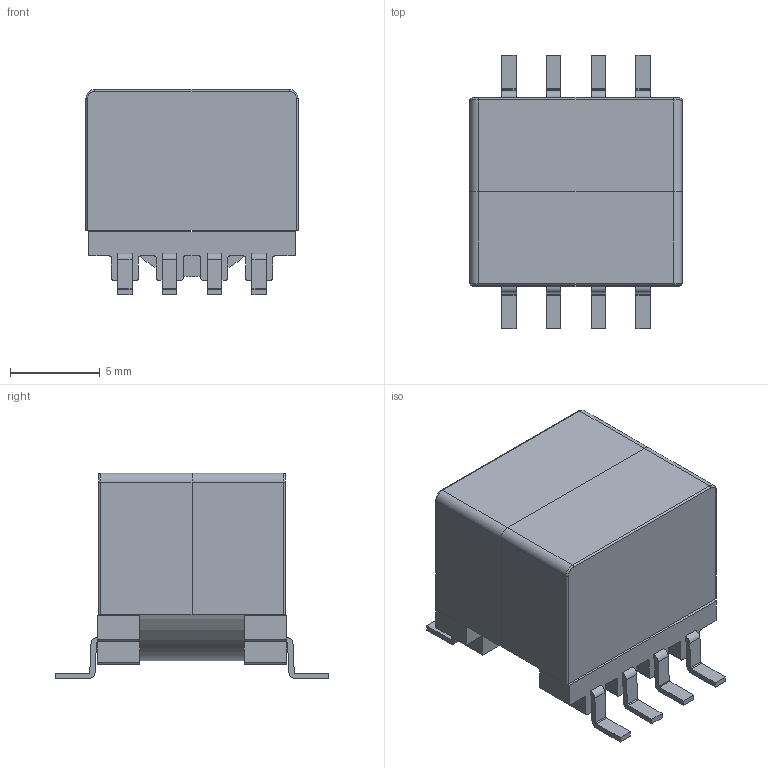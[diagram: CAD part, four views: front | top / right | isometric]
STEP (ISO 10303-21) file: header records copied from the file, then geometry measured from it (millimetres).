
FILE_DESCRIPTION (( 'STEP AP203' ), '1' );
FILE_NAME ('PoE-EP10.STEP', '2025-10-27T05:53:35', ( '' ), ( '' ), 'SwSTEP 2.0', 'SolidWorks 2025', '' );
FILE_SCHEMA (( 'CONFIG_CONTROL_DESIGN' ));
Length unit declared in the file: millimetre
Products named in the file (4): WE-PoE_EP10 (rev1).stp; PoE-EP10; Kern_1.stp; Geh_use_1.stp
Assembly tree (4 placements, depth 3):
  PoE-EP10
    WE-PoE_EP10 (rev1).stp
      Geh_use_1.stp
      Kern_1.stp  x2
Bounding box: 11.8 x 15.24 x 11.43 mm (x, y, z)
Volume: 1068.4 mm3; surface area: 1576.8 mm2
Topology: 3 solids, 3 shells, 233 faces, 635 edges, 414 vertices
Faces by surface type: plane 136, cylinder 93, torus 4
Entity records: 7204 total; most frequent: CARTESIAN_POINT 1242, DIRECTION 1192, ORIENTED_EDGE 1156, EDGE_CURVE 578, AXIS2_PLACEMENT_3D 398, VECTOR 396, LINE 396, VERTEX_POINT 378
